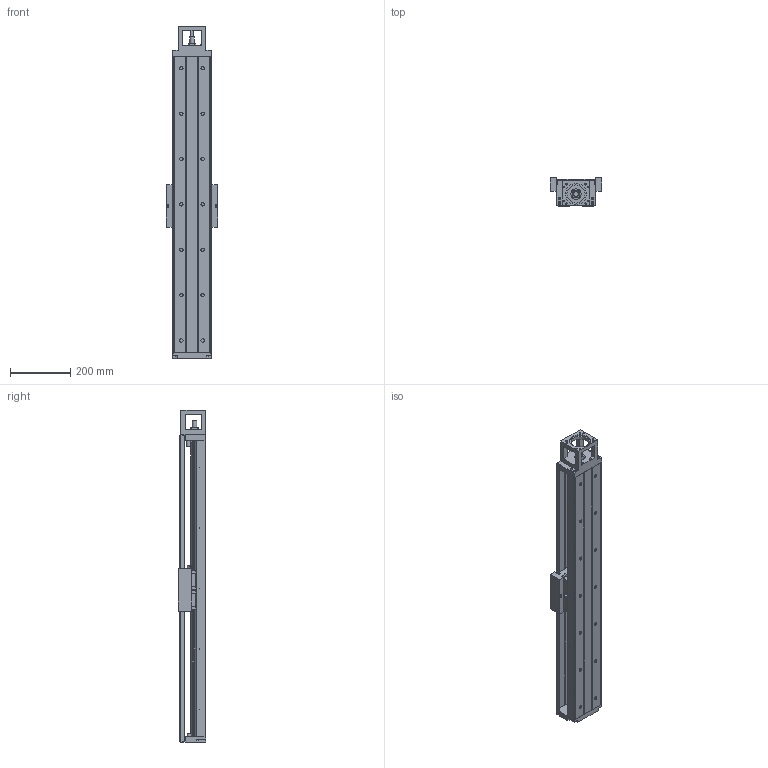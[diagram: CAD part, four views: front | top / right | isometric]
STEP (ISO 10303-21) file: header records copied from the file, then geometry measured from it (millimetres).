
FILE_DESCRIPTION(/* description */ (''),/* implementation_level */ '2;1');
FILE_NAME(/* name */ 'TKK130-980A1F0C.stp',/* time_stamp */ '2016-12-22T10:28:24+08:00',/* author */ (''),/* organization */ (''),/* preprocessor_version */ 'ST-DEVELOPER v15',/* originating_system */ 'SIEMENS PLM Software NX 8.5',/* authorisation */ '');
FILE_SCHEMA (('AUTOMOTIVE_DESIGN { 1 0 10303 214 3 1 1 1 }'));
Length unit declared in the file: millimetre
Products named in the file (3): 022; 011; TKK130-980A1F0C
Assembly tree (2 placements, depth 2):
  TKK130-980A1F0C
    011
    022
Bounding box: 170 x 92 x 1098 mm (x, y, z)
Volume: 5132824.1 mm3; surface area: 1079732.3 mm2
Topology: 2 solids, 46 shells, 1121 faces, 2996 edges, 1958 vertices
Faces by surface type: plane 618, cylinder 334, cone 129, extrusion 33, bspline 6, torus 1
Full cylindrical faces by diameter (mm): 2.1 x10, 2.5 x8, 3.3 x60, 4.5 x20, 5 x23, 6.6 x10, 6.8 x12, 7 x2, 8 x16, 8.5 x4, 9 x8, 11 x22, 12 x4, 15 x1, 16.3 x1, 17 x16, 17.5 x4, 25 x1, 35 x2, 40 x3, 60.03 x1, 70.03 x1
Entity records: 33373 total; most frequent: CARTESIAN_POINT 7221, DIRECTION 5094, ORIENTED_EDGE 4710, EDGE_CURVE 2355, AXIS2_PLACEMENT_3D 1821, VERTEX_POINT 1776, EDGE_LOOP 1581, VECTOR 1452
